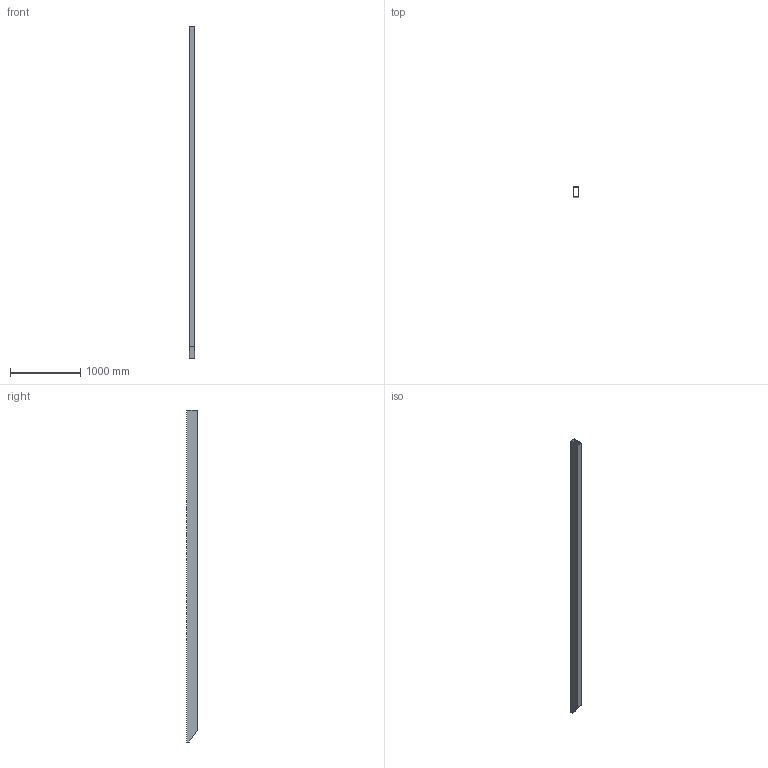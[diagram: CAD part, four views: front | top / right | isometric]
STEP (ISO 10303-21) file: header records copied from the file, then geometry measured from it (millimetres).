
FILE_DESCRIPTION(('Open CASCADE Model'),'2;1');
FILE_NAME('Open CASCADE Shape Model','2026-10-19T10:09:27',('Author'),( 'Open CASCADE'),'Open CASCADE STEP processor 8.0','Open CASCADE 8.0' ,'Unknown');
FILE_SCHEMA(('AUTOMOTIVE_DESIGN { 1 0 10303 214 1 1 1 1 }'));
Length unit declared in the file: millimetre
Products named in the file (1): AC_RHS150x75x5_L4568118_17c97d 174
Bounding box: 75 x 150 x 4728.12 mm (x, y, z)
Volume: 10015410.4 mm3; surface area: 4011544.7 mm2
Topology: 1 solids, 1 shells, 11 faces, 30 edges, 20 vertices
Faces by surface type: plane 11
Entity records: 732 total; most frequent: CARTESIAN_POINT 138, DIRECTION 98, LINE 74, VECTOR 74, ORIENTED_EDGE 60, PCURVE 60, DEFINITIONAL_REPRESENTATION 60, EDGE_CURVE 30
